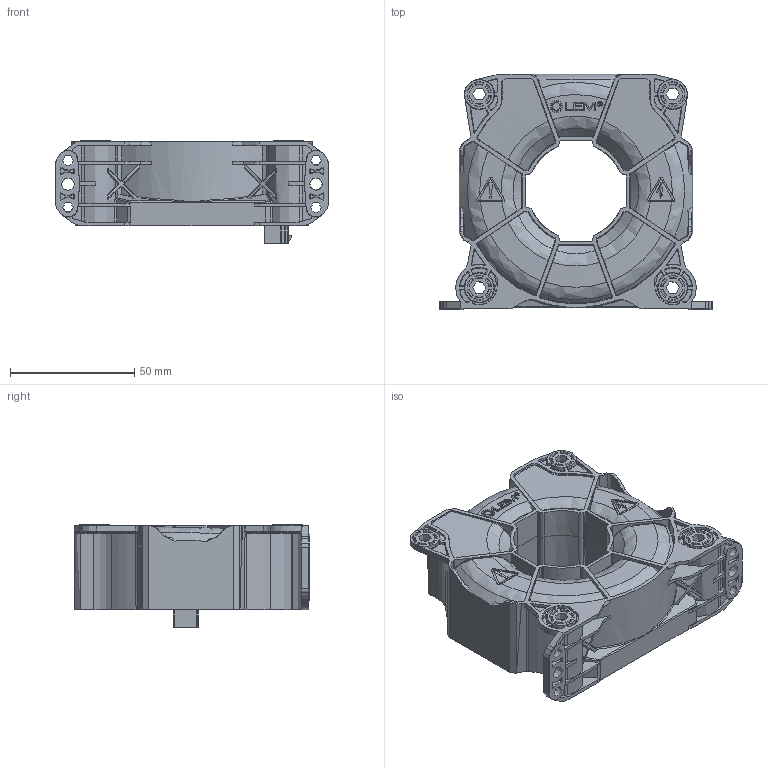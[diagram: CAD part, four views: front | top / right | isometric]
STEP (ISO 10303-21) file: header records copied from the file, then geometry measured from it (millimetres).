
FILE_DESCRIPTION(('Creo Elements/Direct Modeling STEP Export'),'2;1');
FILE_NAME('Blackbox_LF_1010_I.stp','2015-04-01T14:10:36',(''),(''),'Creo Elements/Direct Modeling STEP processor for AP214 (Solid Model)','Creo Elements/Direct Modeling 17.0C 05-Feb-2011 (C) Parametric Technology GmbH','');
FILE_SCHEMA(('AUTOMOTIVE_DESIGN { 1 0 10303 214 1 1 1 1 }'));
Products named in the file (2): LF_1010_OUTLINE_I
Assembly tree (1 placements, depth 2):
  LF_1010_OUTLINE_I
    LF_1010_OUTLINE_I
Bounding box: 110 x 94.8 x 41.2 mm (x, y, z)
Volume: 204134.8 mm3; surface area: 39140.1 mm2
Topology: 1 solids, 2 shells, 2396 faces, 6068 edges, 3727 vertices
Faces by surface type: bspline 896, plane 658, cylinder 574, cone 166, torus 100, sphere 2
Entity records: 157564 total; most frequent: CARTESIAN_POINT 103002, ORIENTED_EDGE 12082, DIRECTION 9601, EDGE_CURVE 6041, VERTEX_POINT 3727, AXIS2_PLACEMENT_3D 3694, EDGE_LOOP 2496, FACE_OUTER_BOUND 2396
